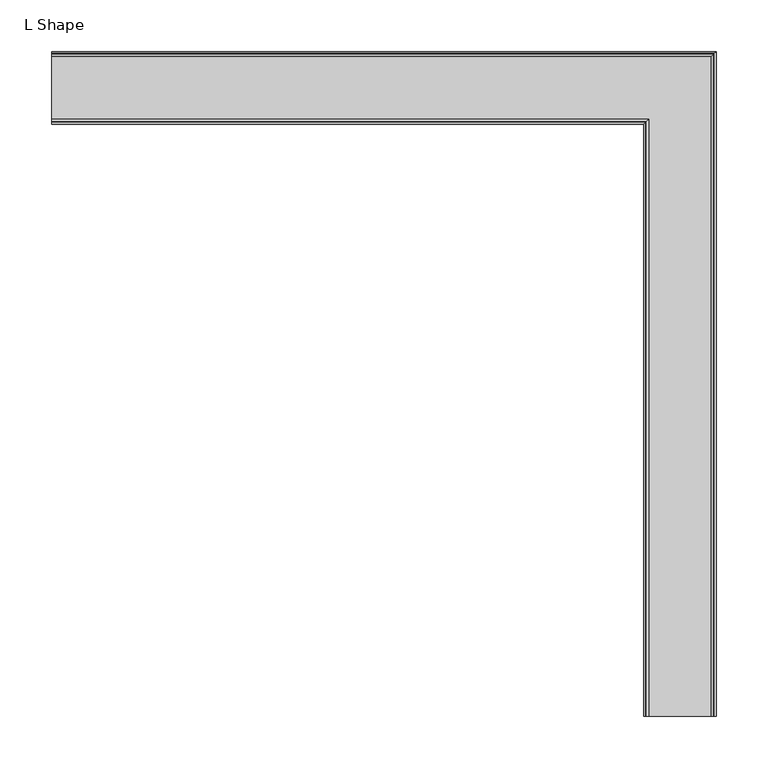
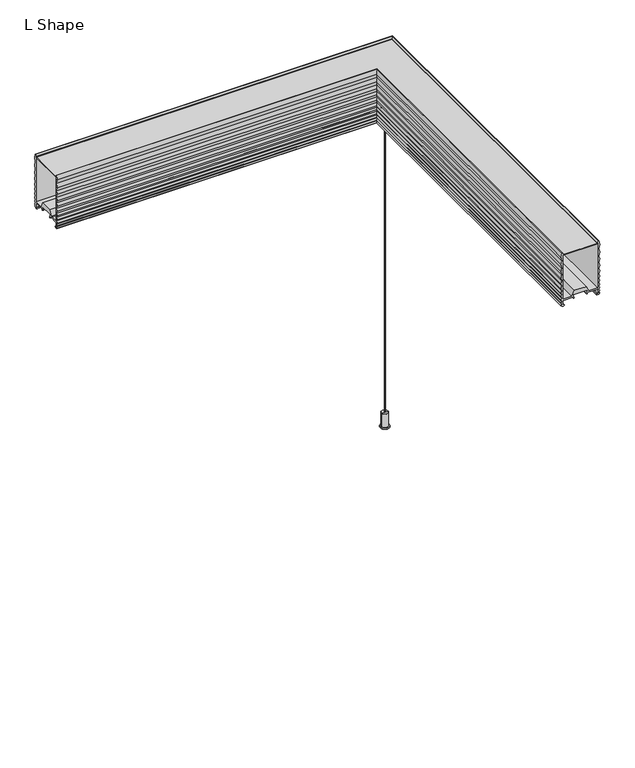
"""IFC4 building model written with IfcOpenShell, lengths in millimetres: light fixture geometry, Lighting-Pendant-Betacalco-Bellows-L_Shape : L Shape."""

from ifc_helpers import new_model, si_unit, point, frame, frame_2d, origin, place, context, project, spatial, polyline, circle_curve, ellipse_curve, trimmed, segment, composite_curve, outline, extrude, source, transform, mapped, element, save
from ifc_brep_helpers import plane_surface, cylinder_surface, advanced_brep


def l_shape_ef792f7e(model_context):
    return source(origin(), model_context, "Body", "SolidModel", [
        extrude(outline(polyline([(334.6958, 30.1625), (334.6958, -30.1625), (274.9042, -30.1625), (274.9042, 30.1625), (334.6958, 30.1625)])), frame((0.0, 0.0, 612.648), z_axis=(0.0, 0.0, 1.0), x_axis=(1.0, 0.0, 0.0)), (0.0, 0.0, 1.0), 1.524),
        advanced_brep(
        [(312.8, 0.0, 0.0), (296.8, 0.0, 0.0), (296.8, 0.0, 2.05), (312.8, 0.0, 2.05), (298.8, 0.0, 2.05), (310.8, 0.0, 2.05), (298.8, 0.0, 27.4), (310.8, 0.0, 27.4), (304.8, 0.0, 27.4), (304.8, 0.0, 0.0)],
        [
            (0, 1, circle_curve(frame((304.8, 0.0, 0.0), z_axis=(0.0, 0.0, 1.0), x_axis=(-1.0, 0.0, 0.0)), 8.0)),
            (1, 2),
            (2, 3, circle_curve(frame((304.8, 0.0, 2.05), z_axis=(0.0, 0.0, -1.0), x_axis=(-1.0, 0.0, 0.0)), 8.0)),
            (3, 0),
            (1, 0, circle_curve(frame((304.8, 0.0, 0.0), z_axis=(0.0, 0.0, 1.0), x_axis=(-1.0, 0.0, 0.0)), 8.0)),
            (3, 2, circle_curve(frame((304.8, 0.0, 2.05), z_axis=(0.0, 0.0, -1.0), x_axis=(-1.0, 0.0, 0.0)), 8.0)),
            (2, 4),
            (4, 5, circle_curve(frame((304.8, 0.0, 2.05), z_axis=(0.0, 0.0, -1.0), x_axis=(-1.0, 0.0, 0.0)), 6.0)),
            (5, 3),
            (5, 4, circle_curve(frame((304.8, 0.0, 2.05), z_axis=(0.0, 0.0, -1.0), x_axis=(-1.0, 0.0, 0.0)), 6.0)),
            (4, 6),
            (6, 7, circle_curve(frame((304.8, 0.0, 27.4), z_axis=(0.0, 0.0, -1.0), x_axis=(-1.0, 0.0, 0.0)), 6.0)),
            (7, 5),
            (7, 6, circle_curve(frame((304.8, 0.0, 27.4), z_axis=(0.0, 0.0, -1.0), x_axis=(-1.0, 0.0, 0.0)), 6.0)),
            (6, 8),
            (8, 7),
            (9, 1),
            (0, 9),
        ],
        [
            cylinder_surface(frame((304.8, 0.0, 2366.7150031), z_axis=(0.0, 0.0, -1.0), x_axis=(-1.0, 0.0, 0.0)), 8.0),
            plane_surface(frame((304.8, 0.0, 2.05), z_axis=(0.0, 0.0, 1.0), x_axis=(-1.0, 0.0, 0.0))),
            cylinder_surface(frame((304.8, 0.0, 2366.7150031), z_axis=(0.0, 0.0, -1.0), x_axis=(-1.0, 0.0, 0.0)), 6.0),
            plane_surface(frame((304.8, 0.0, 27.4), z_axis=(0.0, 0.0, 1.0), x_axis=(-1.0, 0.0, 0.0))),
            plane_surface(frame((304.8, 0.0, 0.0), z_axis=(0.0, 0.0, -1.0), x_axis=(-1.0, 0.0, 0.0))),
        ],
        [
            (0, [[1, 2, 3, 4]]),
            (0, [[5, -4, 6, -2]]),
            (1, [[-3, 7, 8, 9]]),
            (1, [[-6, -9, 10, -7]]),
            (2, [[-8, 11, 12, 13]]),
            (2, [[-10, -13, 14, -11]]),
            (3, [[-12, 15, 16]]),
            (3, [[-14, -16, -15]]),
            (4, [[17, -1, 18]]),
            (4, [[-18, -5, -17]]),
        ],
    ),
        advanced_brep(
        [(305.5937476, 0.0, 27.4), (304.0062524, 0.0, 27.4), (304.0062524, 0.0, 572.93256), (305.5937476, 0.0, 572.93256), (304.8, 0.0, 27.4), (304.8, 0.0, 572.93256)],
        [
            (0, 1, circle_curve(frame((304.8, 0.0, 27.4), z_axis=(0.0, 0.0, 1.0), x_axis=(-1.0, 0.0, 0.0)), 0.7937476)),
            (1, 2),
            (2, 3, circle_curve(frame((304.8, 0.0, 572.93256), z_axis=(0.0, 0.0, -1.0), x_axis=(-1.0, 0.0, 0.0)), 0.7937476)),
            (3, 0),
            (1, 0, circle_curve(frame((304.8, 0.0, 27.4), z_axis=(0.0, 0.0, 1.0), x_axis=(-1.0, 0.0, 0.0)), 0.7937476)),
            (3, 2, circle_curve(frame((304.8, 0.0, 572.93256), z_axis=(0.0, 0.0, -1.0), x_axis=(-1.0, 0.0, 0.0)), 0.7937476)),
            (4, 1),
            (0, 4),
            (2, 5),
            (5, 3),
        ],
        [
            cylinder_surface(frame((304.8, 0.0, 2366.7150031), z_axis=(0.0, 0.0, -1.0), x_axis=(-1.0, 0.0, 0.0)), 0.7937476),
            plane_surface(frame((304.8, 0.0, 27.4), z_axis=(0.0, 0.0, -1.0), x_axis=(-1.0, 0.0, 0.0))),
            plane_surface(frame((304.8, 0.0, 572.93256), z_axis=(0.0, 0.0, 1.0), x_axis=(-1.0, 0.0, 0.0))),
        ],
        [
            (0, [[1, 2, 3, 4]]),
            (0, [[5, -4, 6, -2]]),
            (1, [[7, -1, 8]]),
            (1, [[-8, -5, -7]]),
            (2, [[-3, 9, 10]]),
            (2, [[-6, -10, -9]]),
        ],
    ),
        advanced_brep(
        [(309.2704, 0.0, 578.64756), (300.3296, 0.0, 578.64756), (300.3296, 0.0, 612.648), (309.2704, 0.0, 612.648), (306.7304, 0.0, 578.64756), (302.8696, 0.0, 578.64756), (306.7304, 0.0, 572.93256), (302.8696, 0.0, 572.93256), (304.8, 0.0, 572.93256), (304.8, 0.0, 612.648)],
        [
            (0, 1, circle_curve(frame((304.8, 0.0, 578.64756), z_axis=(0.0, 0.0, 1.0), x_axis=(-1.0, 0.0, 0.0)), 4.4704)),
            (1, 2),
            (2, 3, circle_curve(frame((304.8, 0.0, 612.648), z_axis=(0.0, 0.0, -1.0), x_axis=(-1.0, 0.0, 0.0)), 4.4704)),
            (3, 0),
            (1, 0, circle_curve(frame((304.8, 0.0, 578.64756), z_axis=(0.0, 0.0, 1.0), x_axis=(-1.0, 0.0, 0.0)), 4.4704)),
            (3, 2, circle_curve(frame((304.8, 0.0, 612.648), z_axis=(0.0, 0.0, -1.0), x_axis=(-1.0, 0.0, 0.0)), 4.4704)),
            (4, 5, circle_curve(frame((304.8, 0.0, 578.64756), z_axis=(0.0, 0.0, 1.0), x_axis=(-1.0, 0.0, 0.0)), 1.9304)),
            (5, 1),
            (0, 4),
            (5, 4, circle_curve(frame((304.8, 0.0, 578.64756), z_axis=(0.0, 0.0, 1.0), x_axis=(-1.0, 0.0, 0.0)), 1.9304)),
            (6, 7, circle_curve(frame((304.8, 0.0, 572.93256), z_axis=(0.0, 0.0, 1.0), x_axis=(-1.0, 0.0, 0.0)), 1.9304)),
            (7, 5),
            (4, 6),
            (7, 6, circle_curve(frame((304.8, 0.0, 572.93256), z_axis=(0.0, 0.0, 1.0), x_axis=(-1.0, 0.0, 0.0)), 1.9304)),
            (8, 7),
            (6, 8),
            (2, 9),
            (9, 3),
        ],
        [
            cylinder_surface(frame((304.8, 0.0, 2366.7150031), z_axis=(0.0, 0.0, -1.0), x_axis=(-1.0, 0.0, 0.0)), 4.4704),
            plane_surface(frame((304.8, 0.0, 578.64756), z_axis=(0.0, 0.0, -1.0), x_axis=(-1.0, 0.0, 0.0))),
            cylinder_surface(frame((304.8, 0.0, 2366.7150031), z_axis=(0.0, 0.0, -1.0), x_axis=(-1.0, 0.0, 0.0)), 1.9304),
            plane_surface(frame((304.8, 0.0, 572.93256), z_axis=(0.0, 0.0, -1.0), x_axis=(-1.0, 0.0, 0.0))),
            plane_surface(frame((304.8, 0.0, 612.648), z_axis=(0.0, 0.0, 1.0), x_axis=(-1.0, 0.0, 0.0))),
        ],
        [
            (0, [[1, 2, 3, 4]]),
            (0, [[5, -4, 6, -2]]),
            (1, [[7, 8, -1, 9]]),
            (1, [[10, -9, -5, -8]]),
            (2, [[11, 12, -7, 13]]),
            (2, [[14, -13, -10, -12]]),
            (3, [[15, -11, 16]]),
            (3, [[-16, -14, -15]]),
            (4, [[-3, 17, 18]]),
            (4, [[-6, -18, -17]]),
        ],
    ),
        extrude(outline(composite_curve([segment(trimmed(circle_curve(frame_2d((617.6899758, 295.0365915)), 3.0000001), [point((616.3504727, 292.3522421))], [point((614.7956432, 294.2473898))], False, "CARTESIAN"), True, "CONTINUOUS"), segment(trimmed(circle_curve(frame_2d((653.4964752, 304.8)), 40.113738), [point((614.7956432, 294.2473898))], [point((614.7956432, 315.3526102))], False, "CARTESIAN"), True, "CONTINUOUS"), segment(trimmed(circle_curve(frame_2d((617.6899758, 314.5634085)), 3.0000001), [point((614.7956432, 315.3526102))], [point((616.3504727, 317.2477579))], False, "CARTESIAN"), True, "CONTINUOUS"), segment(polyline([(616.3504727, 317.2477579), (617.6039135, 317.8732308), (617.6039135, 291.7267692), (616.3504727, 292.3522421)]), True, "CONTINUOUS")], self_intersect=False)), frame((0.0, -575.31, 0.0), z_axis=(0.0, 1.0, 0.0), x_axis=(0.0, 0.0, 1.0)), (0.0, 0.0, 1.0), 541.02),
        extrude(outline(composite_curve([segment(trimmed(circle_curve(frame_2d((9.7634085, 617.6899758)), 3.0000001), [point((12.4477579, 616.3504727))], [point((10.5526102, 614.7956432))], False, "CARTESIAN"), True, "CONTINUOUS"), segment(trimmed(circle_curve(frame_2d((0.0, 653.4964752)), 40.113738), [point((10.5526102, 614.7956432))], [point((-10.5526102, 614.7956432))], False, "CARTESIAN"), True, "CONTINUOUS"), segment(trimmed(circle_curve(frame_2d((-9.7634085, 617.6899758)), 3.0000001), [point((-10.5526102, 614.7956432))], [point((-12.4477579, 616.3504727))], False, "CARTESIAN"), True, "CONTINUOUS"), segment(polyline([(-12.4477579, 616.3504727), (-13.0732308, 617.6039135), (13.0732308, 617.6039135), (12.4477579, 616.3504727)]), True, "CONTINUOUS")], self_intersect=False)), frame((-270.51, 0.0, 0.0), z_axis=(1.0, 0.0, 0.0), x_axis=(0.0, 1.0, 0.0)), (0.0, 0.0, 1.0), 541.02),
        advanced_brep(
        [(273.578, -609.6, 620.268), (291.2870711, -609.6, 620.268), (292.0570321, -609.6, 618.214822), (293.7447356, -609.6, 618.8406239), (292.11399, -609.6, 623.1891701), (292.7358437, -609.6, 624.4333325), (316.8641563, -609.6, 624.4333325), (317.48601, -609.6, 623.1891701), (315.8552644, -609.6, 618.8406239), (317.5429679, -609.6, 618.214822), (318.3129289, -609.6, 620.268), (336.022, -609.6, 620.268), (336.022, -609.6, 611.759), (333.4925845, -609.6, 611.759), (335.4378, -609.6, 609.6), (338.0887943, -609.6, 609.6), (339.9621621, -609.6, 611.6283861), (338.181, -609.6, 613.664), (339.959, -609.6, 616.204), (338.181, -609.6, 618.744), (339.959, -609.6, 621.792), (338.181, -609.6, 624.84), (339.959, -609.6, 628.396), (338.181, -609.6, 631.952), (339.959, -609.6, 635.762), (338.181, -609.6, 639.572), (339.9303587, -609.6, 644.0703509), (338.2082002, -609.6, 648.6460566), (339.9355055, -609.6, 653.7288728), (338.2034215, -609.6, 658.8119386), (339.9393965, -609.6, 664.402389), (338.1997837, -609.6, 669.9929656), (339.9424053, -609.6, 676.091104), (338.1964031, -609.6, 682.1911894), (339.9466792, -609.6, 689.3067168), (338.1931082, -609.6, 696.4195673), (339.9474913, -609.6, 703.786321), (338.1814932, -609.6, 711.2), (337.3877432, -609.6, 711.2), (335.22825, -609.6, 708.8470342), (335.22825, -609.6, 707.3961196), (336.022, -609.6, 707.3961196), (336.022, -609.6, 622.427), (320.2806146, -609.6, 622.427), (315.4222255, -609.6, 632.1473325), (294.1777745, -609.6, 632.1473325), (289.3193854, -609.6, 622.427), (273.578, -609.6, 622.427), (273.578, -609.6, 707.3961196), (274.37175, -609.6, 707.3961196), (274.37175, -609.6, 708.8470342), (272.2122568, -609.6, 711.2), (271.4185068, -609.6, 711.2), (269.6525087, -609.6, 703.786321), (271.4068918, -609.6, 696.4195673), (269.6533208, -609.6, 689.3067168), (271.4035969, -609.6, 682.1911894), (269.6575947, -609.6, 676.091104), (271.4002163, -609.6, 669.9929656), (269.6606035, -609.6, 664.402389), (271.3965785, -609.6, 658.8119386), (269.6644945, -609.6, 653.7288728), (271.3917998, -609.6, 648.6460566), (269.6696413, -609.6, 644.0703509), (271.419, -609.6, 639.572), (269.641, -609.6, 635.762), (271.419, -609.6, 631.952), (269.641, -609.6, 628.396), (271.419, -609.6, 624.84), (269.641, -609.6, 621.792), (271.419, -609.6, 618.744), (269.641, -609.6, 616.204), (271.419, -609.6, 613.664), (269.6378379, -609.6, 611.6283861), (271.5112057, -609.6, 609.6), (274.1622, -609.6, 609.6), (276.1074155, -609.6, 611.759), (273.578, -609.6, 611.759), (-304.8, -31.222, 620.268), (-304.8, -31.222, 611.759), (-304.8, -28.6925845, 611.759), (-304.8, -30.6378, 609.6), (-304.8, -33.2887943, 609.6), (-304.8, -35.1621621, 611.6283861), (-304.8, -33.381, 613.664), (-304.8, -35.159, 616.204), (-304.8, -33.381, 618.744), (-304.8, -35.159, 621.792), (-304.8, -33.381, 624.84), (-304.8, -35.159, 628.396), (-304.8, -33.381, 631.952), (-304.8, -35.159, 635.762), (-304.8, -33.381, 639.572), (-304.8, -35.1303587, 644.0703509), (-304.8, -33.4082002, 648.6460566), (-304.8, -35.1355055, 653.7288728), (-304.8, -33.4034215, 658.8119386), (-304.8, -35.1393965, 664.402389), (-304.8, -33.3997837, 669.9929656), (-304.8, -35.1424053, 676.091104), (-304.8, -33.3964031, 682.1911894), (-304.8, -35.1466792, 689.3067168), (-304.8, -33.3931082, 696.4195673), (-304.8, -35.1474913, 703.786321), (-304.8, -33.3814932, 711.2), (-304.8, -32.5877432, 711.2), (-304.8, -30.42825, 708.8470342), (-304.8, -30.42825, 707.3961196), (-304.8, -31.222, 707.3961196), (-304.8, -31.222, 622.427), (-304.8, -15.4806146, 622.427), (-304.8, -10.6222255, 632.1473325), (-304.8, 10.6222255, 632.1473325), (-304.8, 15.4806146, 622.427), (-304.8, 31.222, 622.427), (-304.8, 31.222, 707.3961196), (-304.8, 30.42825, 707.3961196), (-304.8, 30.42825, 708.8470342), (-304.8, 32.5877432, 711.2), (-304.8, 33.3814932, 711.2), (-304.8, 35.1474913, 703.786321), (-304.8, 33.3931082, 696.4195673), (-304.8, 35.1466792, 689.3067168), (-304.8, 33.3964031, 682.1911894), (-304.8, 35.1424053, 676.091104), (-304.8, 33.3997837, 669.9929656), (-304.8, 35.1393965, 664.402389), (-304.8, 33.4034215, 658.8119386), (-304.8, 35.1355055, 653.7288728), (-304.8, 33.4082002, 648.6460566), (-304.8, 35.1303587, 644.0703509), (-304.8, 33.381, 639.572), (-304.8, 35.159, 635.762), (-304.8, 33.381, 631.952), (-304.8, 35.159, 628.396), (-304.8, 33.381, 624.84), (-304.8, 35.159, 621.792), (-304.8, 33.381, 618.744), (-304.8, 35.159, 616.204), (-304.8, 33.381, 613.664), (-304.8, 35.1621621, 611.6283861), (-304.8, 33.2887943, 609.6), (-304.8, 30.6378, 609.6), (-304.8, 28.6925845, 611.759), (-304.8, 31.222, 611.759), (-304.8, 31.222, 620.268), (-304.8, 13.5129289, 620.268), (-304.8, 12.7429679, 618.214822), (-304.8, 11.0552644, 618.8406239), (-304.8, 12.68601, 623.1891701), (-304.8, 12.0641563, 624.4333325), (-304.8, -12.0641563, 624.4333325), (-304.8, -12.68601, 623.1891701), (-304.8, -11.0552644, 618.8406239), (-304.8, -12.7429679, 618.214822), (-304.8, -13.5129289, 620.268), (292.0570321, -12.7429679, 618.214822), (291.2870711, -13.5129289, 620.268), (293.7447356, -11.0552644, 618.8406239), (292.11399, -12.68601, 623.1891701), (292.7358437, -12.0641563, 624.4333325), (317.48601, 12.68601, 623.1891701), (316.8641563, 12.0641563, 624.4333325), (315.8552644, 11.0552644, 618.8406239), (317.5429679, 12.7429679, 618.214822), (318.3129289, 13.5129289, 620.268), (336.022, 31.222, 611.759), (336.022, 31.222, 620.268), (335.4378, 30.6378, 609.6), (333.4925845, 28.6925845, 611.759), (339.9621621, 35.1621621, 611.6283861), (338.0887943, 33.2887943, 609.6), (338.181, 33.381, 613.664), (339.959, 35.159, 616.204), (338.181, 33.381, 618.744), (339.959, 35.159, 621.792), (338.181, 33.381, 624.84), (339.959, 35.159, 628.396), (338.181, 33.381, 631.952), (339.959, 35.159, 635.762), (338.181, 33.381, 639.572), (339.9303587, 35.1303587, 644.0703509), (338.2082002, 33.4082002, 648.6460566), (339.9355055, 35.1355055, 653.7288728), (338.2034215, 33.4034215, 658.8119386), (339.9393965, 35.1393965, 664.402389), (338.1997837, 33.3997837, 669.9929656), (339.9424053, 35.1424053, 676.091104), (338.1964031, 33.3964031, 682.1911894), (339.9466792, 35.1466792, 689.3067168), (338.1931082, 33.3931082, 696.4195673), (339.9474913, 35.1474913, 703.786321), (338.1814932, 33.3814932, 711.2), (335.22825, 30.42825, 708.8470342), (337.3877432, 32.5877432, 711.2), (335.22825, 30.42825, 707.3961196), (336.022, 31.222, 622.427), (336.022, 31.222, 707.3961196), (315.4222255, 10.6222255, 632.1473325), (320.2806146, 15.4806146, 622.427), (289.3193854, -15.4806146, 622.427), (294.1777745, -10.6222255, 632.1473325), (273.578, -31.222, 707.3961196), (273.578, -31.222, 622.427), (274.37175, -30.42825, 708.8470342), (274.37175, -30.42825, 707.3961196), (272.2122568, -32.5877432, 711.2), (269.6525087, -35.1474913, 703.786321), (271.4185068, -33.3814932, 711.2), (271.4068918, -33.3931082, 696.4195673), (269.6533208, -35.1466792, 689.3067168), (271.4035969, -33.3964031, 682.1911894), (269.6575947, -35.1424053, 676.091104), (271.4002163, -33.3997837, 669.9929656), (269.6606035, -35.1393965, 664.402389), (271.3965785, -33.4034215, 658.8119386), (269.6644945, -35.1355055, 653.7288728), (271.3917998, -33.4082002, 648.6460566), (269.6696413, -35.1303587, 644.0703509), (271.419, -33.381, 639.572), (269.641, -35.159, 635.762), (271.419, -33.381, 631.952), (269.641, -35.159, 628.396), (271.419, -33.381, 624.84), (269.641, -35.159, 621.792), (271.419, -33.381, 618.744), (269.641, -35.159, 616.204), (271.419, -33.381, 613.664), (269.6378379, -35.1621621, 611.6283861), (271.5112057, -33.2887943, 609.6), (276.1074155, -28.6925845, 611.759), (274.1622, -30.6378, 609.6), (273.578, -31.222, 620.268), (273.578, -31.222, 611.759)],
        [
            (0, 1),
            (1, 2),
            (2, 3, circle_curve(frame((292.8997277, -609.6, 618.5308408), z_axis=(0.0, -1.0, 0.0), x_axis=(0.34325550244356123, 0.0, -0.9392420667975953)), 0.9000021)),
            (3, 4),
            (4, 5),
            (5, 6),
            (6, 7),
            (7, 8),
            (8, 9, circle_curve(frame((316.7002723, -609.6, 618.5308408), z_axis=(0.0, -1.0, 0.0), x_axis=(-0.34325550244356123, 0.0, -0.9392420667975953)), 0.9000021)),
            (9, 10),
            (10, 11),
            (11, 12),
            (12, 13),
            (13, 14, circle_curve(frame((335.4378, -609.6, 611.5558), z_axis=(0.0, -1.0, 0.0), x_axis=(0.0, 0.0, -1.0)), 1.9558)),
            (14, 15),
            (15, 16),
            (16, 17),
            (17, 18),
            (18, 19),
            (19, 20),
            (20, 21),
            (21, 22),
            (22, 23),
            (23, 24),
            (24, 25),
            (25, 26),
            (26, 27),
            (27, 28),
            (28, 29),
            (29, 30),
            (30, 31),
            (31, 32),
            (32, 33),
            (33, 34),
            (34, 35),
            (35, 36),
            (36, 37),
            (37, 38),
            (38, 39),
            (39, 40),
            (40, 41),
            (41, 42),
            (42, 43),
            (43, 44),
            (44, 45),
            (45, 46),
            (46, 47),
            (47, 48),
            (48, 49),
            (49, 50),
            (50, 51),
            (51, 52),
            (52, 53),
            (53, 54),
            (54, 55),
            (55, 56),
            (56, 57),
            (57, 58),
            (58, 59),
            (59, 60),
            (60, 61),
            (61, 62),
            (62, 63),
            (63, 64),
            (64, 65),
            (65, 66),
            (66, 67),
            (67, 68),
            (68, 69),
            (69, 70),
            (70, 71),
            (71, 72),
            (72, 73),
            (73, 74),
            (74, 75),
            (75, 76, circle_curve(frame((274.1622, -609.6, 611.5558), z_axis=(0.0, -1.0, 0.0), x_axis=(0.0, 0.0, -1.0)), 1.9558)),
            (76, 77),
            (77, 0),
            (78, 79),
            (79, 80),
            (80, 81, circle_curve(frame((-304.8, -30.6378, 611.5558), z_axis=(-1.0, 0.0, 0.0), x_axis=(0.0, 0.0, -1.0)), 1.9558)),
            (81, 82),
            (82, 83),
            (83, 84),
            (84, 85),
            (85, 86),
            (86, 87),
            (87, 88),
            (88, 89),
            (89, 90),
            (90, 91),
            (91, 92),
            (92, 93),
            (93, 94),
            (94, 95),
            (95, 96),
            (96, 97),
            (97, 98),
            (98, 99),
            (99, 100),
            (100, 101),
            (101, 102),
            (102, 103),
            (103, 104),
            (104, 105),
            (105, 106),
            (106, 107),
            (107, 108),
            (108, 109),
            (109, 110),
            (110, 111),
            (111, 112),
            (112, 113),
            (113, 114),
            (114, 115),
            (115, 116),
            (116, 117),
            (117, 118),
            (118, 119),
            (119, 120),
            (120, 121),
            (121, 122),
            (122, 123),
            (123, 124),
            (124, 125),
            (125, 126),
            (126, 127),
            (127, 128),
            (128, 129),
            (129, 130),
            (130, 131),
            (131, 132),
            (132, 133),
            (133, 134),
            (134, 135),
            (135, 136),
            (136, 137),
            (137, 138),
            (138, 139),
            (139, 140),
            (140, 141),
            (141, 142),
            (142, 143, circle_curve(frame((-304.8, 30.6378, 611.5558), z_axis=(-1.0, 0.0, 0.0), x_axis=(0.0, 0.0, -1.0)), 1.9558)),
            (143, 144),
            (144, 145),
            (145, 146),
            (146, 147),
            (147, 148, circle_curve(frame((-304.8, 11.9002723, 618.5308408), z_axis=(-1.0, 0.0, 0.0), x_axis=(0.0, -0.34325550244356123, -0.9392420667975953)), 0.9000021)),
            (148, 149),
            (149, 150),
            (150, 151),
            (151, 152),
            (152, 153),
            (153, 154, circle_curve(frame((-304.8, -11.9002723, 618.5308408), z_axis=(-1.0, 0.0, 0.0), x_axis=(0.0, 0.34325550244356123, -0.9392420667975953)), 0.9000021)),
            (154, 155),
            (155, 78),
            (156, 157),
            (157, 155),
            (154, 156),
            (158, 156, ellipse_curve(frame((292.8997277, -11.9002723, 618.5308408), z_axis=(-0.7071067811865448, 0.7071067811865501, 0.0), x_axis=(0.7071067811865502, 0.7071067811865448, 0.0)), 1.2727952, 0.9000021)),
            (153, 158),
            (159, 158),
            (152, 159),
            (160, 159),
            (151, 160),
            (161, 162),
            (162, 150),
            (149, 161),
            (163, 161),
            (148, 163),
            (164, 163, ellipse_curve(frame((316.7002723, 11.9002723, 618.5308408), z_axis=(-0.7071067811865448, 0.7071067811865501, 0.0), x_axis=(0.7071067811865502, 0.7071067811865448, 0.0)), 1.2727952, 0.9000021)),
            (147, 164),
            (165, 164),
            (146, 165),
            (166, 167),
            (167, 145),
            (144, 166),
            (168, 169, ellipse_curve(frame((335.4378, 30.6378, 611.5558), z_axis=(-0.7071067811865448, 0.7071067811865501, 0.0), x_axis=(0.7071067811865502, 0.7071067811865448, 0.0)), 2.7659189, 1.9558)),
            (169, 143),
            (142, 168),
            (170, 171),
            (171, 141),
            (140, 170),
            (172, 170),
            (139, 172),
            (173, 172),
            (138, 173),
            (174, 173),
            (137, 174),
            (175, 174),
            (136, 175),
            (176, 175),
            (135, 176),
            (177, 176),
            (134, 177),
            (178, 177),
            (133, 178),
            (179, 178),
            (132, 179),
            (180, 179),
            (131, 180),
            (181, 180),
            (130, 181),
            (182, 181),
            (129, 182),
            (183, 182),
            (128, 183),
            (184, 183),
            (127, 184),
            (185, 184),
            (126, 185),
            (186, 185),
            (125, 186),
            (187, 186),
            (124, 187),
            (188, 187),
            (123, 188),
            (189, 188),
            (122, 189),
            (190, 189),
            (121, 190),
            (191, 190),
            (120, 191),
            (192, 191),
            (119, 192),
            (193, 194),
            (194, 118),
            (117, 193),
            (195, 193),
            (116, 195),
            (196, 197),
            (197, 115),
            (114, 196),
            (198, 199),
            (199, 113),
            (112, 198),
            (200, 201),
            (201, 111),
            (110, 200),
            (202, 203),
            (203, 109),
            (108, 202),
            (204, 205),
            (205, 107),
            (106, 204),
            (206, 204),
            (105, 206),
            (207, 208),
            (208, 104),
            (103, 207),
            (209, 207),
            (102, 209),
            (210, 209),
            (101, 210),
            (211, 210),
            (100, 211),
            (212, 211),
            (99, 212),
            (213, 212),
            (98, 213),
            (214, 213),
            (97, 214),
            (215, 214),
            (96, 215),
            (216, 215),
            (95, 216),
            (217, 216),
            (94, 217),
            (218, 217),
            (93, 218),
            (219, 218),
            (92, 219),
            (220, 219),
            (91, 220),
            (221, 220),
            (90, 221),
            (222, 221),
            (89, 222),
            (223, 222),
            (88, 223),
            (224, 223),
            (87, 224),
            (225, 224),
            (86, 225),
            (226, 225),
            (85, 226),
            (227, 226),
            (84, 227),
            (228, 227),
            (83, 228),
            (229, 228),
            (82, 229),
            (230, 231, ellipse_curve(frame((274.1622, -30.6378, 611.5558), z_axis=(-0.7071067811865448, 0.7071067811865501, 0.0), x_axis=(0.7071067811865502, 0.7071067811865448, 0.0)), 2.7659189, 1.9558)),
            (231, 81),
            (80, 230),
            (232, 233),
            (233, 79),
            (78, 232),
            (0, 232),
            (157, 1),
            (156, 2),
            (158, 3),
            (159, 4),
            (160, 5),
            (162, 6),
            (161, 7),
            (163, 8),
            (164, 9),
            (165, 10),
            (167, 11),
            (166, 12),
            (169, 13),
            (168, 14),
            (171, 15),
            (170, 16),
            (172, 17),
            (173, 18),
            (174, 19),
            (175, 20),
            (176, 21),
            (177, 22),
            (178, 23),
            (179, 24),
            (180, 25),
            (181, 26),
            (182, 27),
            (183, 28),
            (184, 29),
            (185, 30),
            (186, 31),
            (187, 32),
            (188, 33),
            (189, 34),
            (190, 35),
            (191, 36),
            (192, 37),
            (194, 38),
            (193, 39),
            (195, 40),
            (197, 41),
            (196, 42),
            (199, 43),
            (198, 44),
            (201, 45),
            (200, 46),
            (203, 47),
            (202, 48),
            (205, 49),
            (204, 50),
            (206, 51),
            (208, 52),
            (207, 53),
            (209, 54),
            (210, 55),
            (211, 56),
            (212, 57),
            (213, 58),
            (214, 59),
            (215, 60),
            (216, 61),
            (217, 62),
            (218, 63),
            (219, 64),
            (220, 65),
            (221, 66),
            (222, 67),
            (223, 68),
            (224, 69),
            (225, 70),
            (226, 71),
            (227, 72),
            (228, 73),
            (229, 74),
            (231, 75),
            (230, 76),
            (233, 77),
        ],
        [
            plane_surface(frame((304.8, -609.6, 0.0), z_axis=(0.0, -1.0, 0.0), x_axis=(0.0, 0.0, 1.0))),
            plane_surface(frame((-304.8, 0.0, 0.0), z_axis=(-1.0, 0.0, 0.0), x_axis=(0.0, 0.0, 1.0))),
            plane_surface(frame((291.2870711, -13.5129289, 620.268), z_axis=(0.0, -0.9363262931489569, -0.3511311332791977), x_axis=(-1.0, 0.0, 0.0))),
            cylinder_surface(frame((304.8, -11.9002723, 618.5308408), z_axis=(1.0, 0.0, 0.0), x_axis=(0.0, 0.34325550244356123, -0.9392420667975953)), 0.9000021),
            plane_surface(frame((293.7447356, -11.0552644, 618.8406239), z_axis=(0.0, 0.9363262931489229, 0.35113113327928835), x_axis=(-1.0, 0.0, 0.0))),
            plane_surface(frame((292.11399, -12.68601, 623.1891701), z_axis=(0.0, 0.89449260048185, -0.44708275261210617), x_axis=(-1.0, 0.0, 0.0))),
            plane_surface(frame((316.8641563, 12.0641563, 624.4333325), z_axis=(0.0, -0.89449260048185, -0.44708275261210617), x_axis=(-1.0, 0.0, 0.0))),
            plane_surface(frame((317.48601, 12.68601, 623.1891701), z_axis=(0.0, -0.9363262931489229, 0.35113113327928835), x_axis=(-1.0, 0.0, 0.0))),
            cylinder_surface(frame((304.8, 11.9002723, 618.5308408), z_axis=(1.0, 0.0, 0.0), x_axis=(0.0, -0.34325550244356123, -0.9392420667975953)), 0.9000021),
            plane_surface(frame((317.5429679, 12.7429679, 618.214822), z_axis=(0.0, 0.9363262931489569, -0.3511311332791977), x_axis=(-1.0, 0.0, 0.0))),
            plane_surface(frame((336.022, 31.222, 620.268), z_axis=(0.0, -1.0, 0.0), x_axis=(-1.0, 0.0, 0.0))),
            cylinder_surface(frame((304.8, 30.6378, 611.5558), z_axis=(1.0, 0.0, 0.0), x_axis=(0.0, 0.0, -1.0)), 1.9558),
            plane_surface(frame((338.0887943, 33.2887943, 609.6), z_axis=(0.0, 0.7346208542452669, -0.6784778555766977), x_axis=(-1.0, 0.0, 0.0))),
            plane_surface(frame((339.9621621, 35.1621621, 611.6283861), z_axis=(0.0, 0.75257669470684, 0.6585046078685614), x_axis=(-1.0, 0.0, 0.0))),
            plane_surface(frame((338.181, 33.381, 613.664), z_axis=(0.0, 0.8192319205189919, -0.5734623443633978), x_axis=(-1.0, 0.0, 0.0))),
            plane_surface(frame((339.959, 35.159, 616.204), z_axis=(0.0, 0.8192319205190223, 0.5734623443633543), x_axis=(-1.0, 0.0, 0.0))),
            plane_surface(frame((338.181, 33.381, 618.744), z_axis=(0.0, 0.8637789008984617, -0.503871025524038), x_axis=(-1.0, 0.0, 0.0))),
            plane_surface(frame((339.959, 35.159, 621.792), z_axis=(0.0, 0.8637789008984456, 0.5038710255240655), x_axis=(-1.0, 0.0, 0.0))),
            plane_surface(frame((338.181, 33.381, 624.84), z_axis=(0.0, 0.8944271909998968, -0.4472135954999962), x_axis=(-1.0, 0.0, 0.0))),
            plane_surface(frame((339.959, 35.159, 628.396), z_axis=(0.0, 0.8944271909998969, 0.44721359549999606), x_axis=(-1.0, 0.0, 0.0))),
            plane_surface(frame((338.181, 33.381, 631.952), z_axis=(0.0, 0.9061831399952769, -0.4228854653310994), x_axis=(-1.0, 0.0, 0.0))),
            plane_surface(frame((339.959, 35.159, 635.762), z_axis=(0.0, 0.9061831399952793, 0.4228854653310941), x_axis=(-1.0, 0.0, 0.0))),
            plane_surface(frame((338.181, 33.381, 639.572), z_axis=(0.0, 0.9320046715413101, -0.362446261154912), x_axis=(-1.0, 0.0, 0.0))),
            plane_surface(frame((339.9303587, 35.1303587, 644.0703509), z_axis=(0.0, 0.9359069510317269, 0.35224732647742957), x_axis=(-1.0, 0.0, 0.0))),
            plane_surface(frame((338.2082002, 33.4082002, 648.6460566), z_axis=(0.0, 0.9468211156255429, -0.3217604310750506), x_axis=(-1.0, 0.0, 0.0))),
            plane_surface(frame((339.9355055, 35.1355055, 653.7288728), z_axis=(0.0, 0.9465545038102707, 0.3225439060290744), x_axis=(-1.0, 0.0, 0.0))),
            plane_surface(frame((338.2034215, 33.4034215, 658.8119386), z_axis=(0.0, 0.9550153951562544, -0.2965562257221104), x_axis=(-1.0, 0.0, 0.0))),
            plane_surface(frame((339.9393965, 35.1393965, 664.402389), z_axis=(0.0, 0.9548411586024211, 0.29711674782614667), x_axis=(-1.0, 0.0, 0.0))),
            plane_surface(frame((338.1997837, 33.3997837, 669.9929656), z_axis=(0.0, 0.9615116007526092, -0.2747643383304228), x_axis=(-1.0, 0.0, 0.0))),
            plane_surface(frame((339.9424053, 35.1424053, 676.091104), z_axis=(0.0, 0.9613939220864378, 0.27517581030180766), x_axis=(-1.0, 0.0, 0.0))),
            plane_surface(frame((338.1964031, 33.3964031, 682.1911894), z_axis=(0.0, 0.971054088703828, -0.23885970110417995), x_axis=(-1.0, 0.0, 0.0))),
            plane_surface(frame((339.9466792, 35.1466792, 689.3067168), z_axis=(0.0, 0.9709287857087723, 0.23936852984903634), x_axis=(-1.0, 0.0, 0.0))),
            plane_surface(frame((338.1931082, 33.3931082, 696.4195673), z_axis=(0.0, 0.9727944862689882, -0.23166978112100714), x_axis=(-1.0, 0.0, 0.0))),
            plane_surface(frame((339.9474913, 35.1474913, 703.786321), z_axis=(0.0, 0.9727814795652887, 0.23172439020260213), x_axis=(-1.0, 0.0, 0.0))),
            plane_surface(frame((337.3877432, 32.5877432, 711.2), z_axis=(0.0, -0.7367472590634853, 0.6761682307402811), x_axis=(-1.0, 0.0, 0.0))),
            plane_surface(frame((335.22825, 30.42825, 708.8470342), z_axis=(0.0, -1.0, 0.0), x_axis=(-1.0, 0.0, 0.0))),
            plane_surface(frame((336.022, 31.222, 707.3961196), z_axis=(0.0, -1.0, 0.0), x_axis=(-1.0, 0.0, 0.0))),
            plane_surface(frame((320.2806146, 15.4806146, 622.427), z_axis=(0.0, 0.8944926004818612, 0.4470827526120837), x_axis=(-1.0, 0.0, 0.0))),
            plane_surface(frame((294.1777745, -10.6222255, 632.1473325), z_axis=(0.0, -0.8944926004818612, 0.4470827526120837), x_axis=(-1.0, 0.0, 0.0))),
            plane_surface(frame((273.578, -31.222, 622.427), z_axis=(0.0, 1.0, 0.0), x_axis=(-1.0, 0.0, 0.0))),
            plane_surface(frame((274.37175, -30.42825, 707.3961196), z_axis=(0.0, 1.0, 0.0), x_axis=(-1.0, 0.0, 0.0))),
            plane_surface(frame((274.37175, -30.42825, 708.8470342), z_axis=(0.0, 0.7367472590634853, 0.6761682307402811), x_axis=(-1.0, 0.0, 0.0))),
            plane_surface(frame((271.4185068, -33.3814932, 711.2), z_axis=(0.0, -0.9727814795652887, 0.23172439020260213), x_axis=(-1.0, 0.0, 0.0))),
            plane_surface(frame((269.6525087, -35.1474913, 703.786321), z_axis=(0.0, -0.9727944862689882, -0.23166978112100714), x_axis=(-1.0, 0.0, 0.0))),
            plane_surface(frame((271.4068918, -33.3931082, 696.4195673), z_axis=(0.0, -0.9709287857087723, 0.23936852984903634), x_axis=(-1.0, 0.0, 0.0))),
            plane_surface(frame((269.6533208, -35.1466792, 689.3067168), z_axis=(0.0, -0.971054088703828, -0.23885970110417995), x_axis=(-1.0, 0.0, 0.0))),
            plane_surface(frame((271.4035969, -33.3964031, 682.1911894), z_axis=(0.0, -0.9613939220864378, 0.27517581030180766), x_axis=(-1.0, 0.0, 0.0))),
            plane_surface(frame((269.6575947, -35.1424053, 676.091104), z_axis=(0.0, -0.9615116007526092, -0.2747643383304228), x_axis=(-1.0, 0.0, 0.0))),
            plane_surface(frame((271.4002163, -33.3997837, 669.9929656), z_axis=(0.0, -0.9548411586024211, 0.29711674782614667), x_axis=(-1.0, 0.0, 0.0))),
            plane_surface(frame((269.6606035, -35.1393965, 664.402389), z_axis=(0.0, -0.9550153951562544, -0.2965562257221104), x_axis=(-1.0, 0.0, 0.0))),
            plane_surface(frame((271.3965785, -33.4034215, 658.8119386), z_axis=(0.0, -0.9465545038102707, 0.3225439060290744), x_axis=(-1.0, 0.0, 0.0))),
            plane_surface(frame((269.6644945, -35.1355055, 653.7288728), z_axis=(0.0, -0.9468211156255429, -0.3217604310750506), x_axis=(-1.0, 0.0, 0.0))),
            plane_surface(frame((271.3917998, -33.4082002, 648.6460566), z_axis=(0.0, -0.9359069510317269, 0.35224732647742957), x_axis=(-1.0, 0.0, 0.0))),
            plane_surface(frame((269.6696413, -35.1303587, 644.0703509), z_axis=(0.0, -0.9320046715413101, -0.362446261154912), x_axis=(-1.0, 0.0, 0.0))),
            plane_surface(frame((271.419, -33.381, 639.572), z_axis=(0.0, -0.9061831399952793, 0.4228854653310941), x_axis=(-1.0, 0.0, 0.0))),
            plane_surface(frame((269.641, -35.159, 635.762), z_axis=(0.0, -0.9061831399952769, -0.4228854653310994), x_axis=(-1.0, 0.0, 0.0))),
            plane_surface(frame((271.419, -33.381, 631.952), z_axis=(0.0, -0.8944271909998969, 0.44721359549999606), x_axis=(-1.0, 0.0, 0.0))),
            plane_surface(frame((269.641, -35.159, 628.396), z_axis=(0.0, -0.8944271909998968, -0.4472135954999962), x_axis=(-1.0, 0.0, 0.0))),
            plane_surface(frame((271.419, -33.381, 624.84), z_axis=(0.0, -0.8637789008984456, 0.5038710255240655), x_axis=(-1.0, 0.0, 0.0))),
            plane_surface(frame((269.641, -35.159, 621.792), z_axis=(0.0, -0.8637789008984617, -0.503871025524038), x_axis=(-1.0, 0.0, 0.0))),
            plane_surface(frame((271.419, -33.381, 618.744), z_axis=(0.0, -0.8192319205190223, 0.5734623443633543), x_axis=(-1.0, 0.0, 0.0))),
            plane_surface(frame((269.641, -35.159, 616.204), z_axis=(0.0, -0.8192319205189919, -0.5734623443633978), x_axis=(-1.0, 0.0, 0.0))),
            plane_surface(frame((271.419, -33.381, 613.664), z_axis=(0.0, -0.75257669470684, 0.6585046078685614), x_axis=(-1.0, 0.0, 0.0))),
            plane_surface(frame((269.6378379, -35.1621621, 611.6283861), z_axis=(0.0, -0.7346208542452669, -0.6784778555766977), x_axis=(-1.0, 0.0, 0.0))),
            cylinder_surface(frame((304.8, -30.6378, 611.5558), z_axis=(1.0, 0.0, 0.0), x_axis=(0.0, 0.0, -1.0)), 1.9558),
            plane_surface(frame((273.578, -31.222, 611.759), z_axis=(0.0, 1.0, 0.0), x_axis=(-1.0, 0.0, 0.0))),
            plane_surface(frame((273.578, -609.6, 620.268), z_axis=(0.0, 0.0, -1.0), x_axis=(0.0, 1.0, 0.0))),
            plane_surface(frame((291.2870711, -609.6, 620.268), z_axis=(-0.9363262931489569, 0.0, -0.3511311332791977), x_axis=(0.0, 1.0, 0.0))),
            cylinder_surface(frame((292.8997277, -609.6, 618.5308408), z_axis=(0.0, -1.0, 0.0), x_axis=(0.34325550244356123, 0.0, -0.9392420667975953)), 0.9000021),
            plane_surface(frame((293.7447356, -609.6, 618.8406239), z_axis=(0.9363262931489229, 0.0, 0.35113113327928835), x_axis=(0.0, 1.0, 0.0))),
            plane_surface(frame((292.11399, -609.6, 623.1891701), z_axis=(0.89449260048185, 0.0, -0.44708275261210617), x_axis=(0.0, 1.0, 0.0))),
            plane_surface(frame((292.7358437, -609.6, 624.4333325), z_axis=(0.0, 0.0, -1.0), x_axis=(0.0, 1.0, 0.0))),
            plane_surface(frame((316.8641563, -609.6, 624.4333325), z_axis=(-0.89449260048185, 0.0, -0.44708275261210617), x_axis=(0.0, 1.0, 0.0))),
            plane_surface(frame((317.48601, -609.6, 623.1891701), z_axis=(-0.9363262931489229, 0.0, 0.35113113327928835), x_axis=(0.0, 1.0, 0.0))),
            cylinder_surface(frame((316.7002723, -609.6, 618.5308408), z_axis=(0.0, -1.0, 0.0), x_axis=(-0.34325550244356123, 0.0, -0.9392420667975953)), 0.9000021),
            plane_surface(frame((317.5429679, -609.6, 618.214822), z_axis=(0.9363262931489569, 0.0, -0.3511311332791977), x_axis=(0.0, 1.0, 0.0))),
            plane_surface(frame((318.3129289, -609.6, 620.268), z_axis=(0.0, 0.0, -1.0), x_axis=(0.0, 1.0, 0.0))),
            plane_surface(frame((336.022, -609.6, 620.268), z_axis=(-1.0, 0.0, 0.0), x_axis=(0.0, 1.0, 0.0))),
            plane_surface(frame((336.022, -609.6, 611.759), z_axis=(0.0, 0.0, 1.0), x_axis=(0.0, 1.0, 0.0))),
            cylinder_surface(frame((335.4378, -609.6, 611.5558), z_axis=(0.0, -1.0, 0.0), x_axis=(0.0, 0.0, -1.0)), 1.9558),
            plane_surface(frame((335.4378, -609.6, 609.6), z_axis=(0.0, 0.0, -1.0), x_axis=(0.0, 1.0, 0.0))),
            plane_surface(frame((338.0887943, -609.6, 609.6), z_axis=(0.7346208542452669, 0.0, -0.6784778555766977), x_axis=(0.0, 1.0, 0.0))),
            plane_surface(frame((339.9621621, -609.6, 611.6283861), z_axis=(0.75257669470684, 0.0, 0.6585046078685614), x_axis=(0.0, 1.0, 0.0))),
            plane_surface(frame((338.181, -609.6, 613.664), z_axis=(0.8192319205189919, 0.0, -0.5734623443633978), x_axis=(0.0, 1.0, 0.0))),
            plane_surface(frame((339.959, -609.6, 616.204), z_axis=(0.8192319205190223, 0.0, 0.5734623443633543), x_axis=(0.0, 1.0, 0.0))),
            plane_surface(frame((338.181, -609.6, 618.744), z_axis=(0.8637789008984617, 0.0, -0.503871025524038), x_axis=(0.0, 1.0, 0.0))),
            plane_surface(frame((339.959, -609.6, 621.792), z_axis=(0.8637789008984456, 0.0, 0.5038710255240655), x_axis=(0.0, 1.0, 0.0))),
            plane_surface(frame((338.181, -609.6, 624.84), z_axis=(0.8944271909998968, 0.0, -0.4472135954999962), x_axis=(0.0, 1.0, 0.0))),
            plane_surface(frame((339.959, -609.6, 628.396), z_axis=(0.8944271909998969, 0.0, 0.44721359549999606), x_axis=(0.0, 1.0, 0.0))),
            plane_surface(frame((338.181, -609.6, 631.952), z_axis=(0.9061831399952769, 0.0, -0.4228854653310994), x_axis=(0.0, 1.0, 0.0))),
            plane_surface(frame((339.959, -609.6, 635.762), z_axis=(0.9061831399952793, 0.0, 0.4228854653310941), x_axis=(0.0, 1.0, 0.0))),
            plane_surface(frame((338.181, -609.6, 639.572), z_axis=(0.9320046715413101, 0.0, -0.362446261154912), x_axis=(0.0, 1.0, 0.0))),
            plane_surface(frame((339.9303587, -609.6, 644.0703509), z_axis=(0.9359069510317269, 0.0, 0.35224732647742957), x_axis=(0.0, 1.0, 0.0))),
            plane_surface(frame((338.2082002, -609.6, 648.6460566), z_axis=(0.9468211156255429, 0.0, -0.3217604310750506), x_axis=(0.0, 1.0, 0.0))),
            plane_surface(frame((339.9355055, -609.6, 653.7288728), z_axis=(0.9465545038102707, 0.0, 0.3225439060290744), x_axis=(0.0, 1.0, 0.0))),
            plane_surface(frame((338.2034215, -609.6, 658.8119386), z_axis=(0.9550153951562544, 0.0, -0.2965562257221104), x_axis=(0.0, 1.0, 0.0))),
            plane_surface(frame((339.9393965, -609.6, 664.402389), z_axis=(0.9548411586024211, 0.0, 0.29711674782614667), x_axis=(0.0, 1.0, 0.0))),
            plane_surface(frame((338.1997837, -609.6, 669.9929656), z_axis=(0.9615116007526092, 0.0, -0.2747643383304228), x_axis=(0.0, 1.0, 0.0))),
            plane_surface(frame((339.9424053, -609.6, 676.091104), z_axis=(0.9613939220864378, 0.0, 0.27517581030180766), x_axis=(0.0, 1.0, 0.0))),
            plane_surface(frame((338.1964031, -609.6, 682.1911894), z_axis=(0.971054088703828, 0.0, -0.23885970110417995), x_axis=(0.0, 1.0, 0.0))),
            plane_surface(frame((339.9466792, -609.6, 689.3067168), z_axis=(0.9709287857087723, 0.0, 0.23936852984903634), x_axis=(0.0, 1.0, 0.0))),
            plane_surface(frame((338.1931082, -609.6, 696.4195673), z_axis=(0.9727944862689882, 0.0, -0.23166978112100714), x_axis=(0.0, 1.0, 0.0))),
            plane_surface(frame((339.9474913, -609.6, 703.786321), z_axis=(0.9727814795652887, 0.0, 0.23172439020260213), x_axis=(0.0, 1.0, 0.0))),
            plane_surface(frame((338.1814932, -609.6, 711.2), z_axis=(0.0, 0.0, 1.0), x_axis=(0.0, 1.0, 0.0))),
            plane_surface(frame((337.3877432, -609.6, 711.2), z_axis=(-0.7367472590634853, 0.0, 0.6761682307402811), x_axis=(0.0, 1.0, 0.0))),
            plane_surface(frame((335.22825, -609.6, 708.8470342), z_axis=(-1.0, 0.0, 0.0), x_axis=(0.0, 1.0, 0.0))),
            plane_surface(frame((335.22825, -609.6, 707.3961196), z_axis=(0.0, 0.0, -1.0), x_axis=(0.0, 1.0, 0.0))),
            plane_surface(frame((336.022, -609.6, 707.3961196), z_axis=(-1.0, 0.0, 0.0), x_axis=(0.0, 1.0, 0.0))),
            plane_surface(frame((336.022, -609.6, 622.427), z_axis=(0.0, 0.0, 1.0), x_axis=(0.0, 1.0, 0.0))),
            plane_surface(frame((320.2806146, -609.6, 622.427), z_axis=(0.8944926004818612, 0.0, 0.4470827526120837), x_axis=(0.0, 1.0, 0.0))),
            plane_surface(frame((315.4222255, -609.6, 632.1473325), z_axis=(0.0, 0.0, 1.0), x_axis=(0.0, 1.0, 0.0))),
            plane_surface(frame((294.1777745, -609.6, 632.1473325), z_axis=(-0.8944926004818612, 0.0, 0.4470827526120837), x_axis=(0.0, 1.0, 0.0))),
            plane_surface(frame((289.3193854, -609.6, 622.427), z_axis=(0.0, 0.0, 1.0), x_axis=(0.0, 1.0, 0.0))),
            plane_surface(frame((273.578, -609.6, 622.427), z_axis=(1.0, 0.0, 0.0), x_axis=(0.0, 1.0, 0.0))),
            plane_surface(frame((273.578, -609.6, 707.3961196), z_axis=(0.0, 0.0, -1.0), x_axis=(0.0, 1.0, 0.0))),
            plane_surface(frame((274.37175, -609.6, 707.3961196), z_axis=(1.0, 0.0, 0.0), x_axis=(0.0, 1.0, 0.0))),
            plane_surface(frame((274.37175, -609.6, 708.8470342), z_axis=(0.7367472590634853, 0.0, 0.6761682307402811), x_axis=(0.0, 1.0, 0.0))),
            plane_surface(frame((272.2122568, -609.6, 711.2), z_axis=(0.0, 0.0, 1.0), x_axis=(0.0, 1.0, 0.0))),
            plane_surface(frame((271.4185068, -609.6, 711.2), z_axis=(-0.9727814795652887, 0.0, 0.23172439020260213), x_axis=(0.0, 1.0, 0.0))),
            plane_surface(frame((269.6525087, -609.6, 703.786321), z_axis=(-0.9727944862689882, 0.0, -0.23166978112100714), x_axis=(0.0, 1.0, 0.0))),
            plane_surface(frame((271.4068918, -609.6, 696.4195673), z_axis=(-0.9709287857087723, 0.0, 0.23936852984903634), x_axis=(0.0, 1.0, 0.0))),
            plane_surface(frame((269.6533208, -609.6, 689.3067168), z_axis=(-0.971054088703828, 0.0, -0.23885970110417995), x_axis=(0.0, 1.0, 0.0))),
            plane_surface(frame((271.4035969, -609.6, 682.1911894), z_axis=(-0.9613939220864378, 0.0, 0.27517581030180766), x_axis=(0.0, 1.0, 0.0))),
            plane_surface(frame((269.6575947, -609.6, 676.091104), z_axis=(-0.9615116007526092, 0.0, -0.2747643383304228), x_axis=(0.0, 1.0, 0.0))),
            plane_surface(frame((271.4002163, -609.6, 669.9929656), z_axis=(-0.9548411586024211, 0.0, 0.29711674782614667), x_axis=(0.0, 1.0, 0.0))),
            plane_surface(frame((269.6606035, -609.6, 664.402389), z_axis=(-0.9550153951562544, 0.0, -0.2965562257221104), x_axis=(0.0, 1.0, 0.0))),
            plane_surface(frame((271.3965785, -609.6, 658.8119386), z_axis=(-0.9465545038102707, 0.0, 0.3225439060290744), x_axis=(0.0, 1.0, 0.0))),
            plane_surface(frame((269.6644945, -609.6, 653.7288728), z_axis=(-0.9468211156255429, 0.0, -0.3217604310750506), x_axis=(0.0, 1.0, 0.0))),
            plane_surface(frame((271.3917998, -609.6, 648.6460566), z_axis=(-0.9359069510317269, 0.0, 0.35224732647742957), x_axis=(0.0, 1.0, 0.0))),
            plane_surface(frame((269.6696413, -609.6, 644.0703509), z_axis=(-0.9320046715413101, 0.0, -0.362446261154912), x_axis=(0.0, 1.0, 0.0))),
            plane_surface(frame((271.419, -609.6, 639.572), z_axis=(-0.9061831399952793, 0.0, 0.4228854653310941), x_axis=(0.0, 1.0, 0.0))),
            plane_surface(frame((269.641, -609.6, 635.762), z_axis=(-0.9061831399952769, 0.0, -0.4228854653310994), x_axis=(0.0, 1.0, 0.0))),
            plane_surface(frame((271.419, -609.6, 631.952), z_axis=(-0.8944271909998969, 0.0, 0.44721359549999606), x_axis=(0.0, 1.0, 0.0))),
            plane_surface(frame((269.641, -609.6, 628.396), z_axis=(-0.8944271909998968, 0.0, -0.4472135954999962), x_axis=(0.0, 1.0, 0.0))),
            plane_surface(frame((271.419, -609.6, 624.84), z_axis=(-0.8637789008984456, 0.0, 0.5038710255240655), x_axis=(0.0, 1.0, 0.0))),
            plane_surface(frame((269.641, -609.6, 621.792), z_axis=(-0.8637789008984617, 0.0, -0.503871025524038), x_axis=(0.0, 1.0, 0.0))),
            plane_surface(frame((271.419, -609.6, 618.744), z_axis=(-0.8192319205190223, 0.0, 0.5734623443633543), x_axis=(0.0, 1.0, 0.0))),
            plane_surface(frame((269.641, -609.6, 616.204), z_axis=(-0.8192319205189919, 0.0, -0.5734623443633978), x_axis=(0.0, 1.0, 0.0))),
            plane_surface(frame((271.419, -609.6, 613.664), z_axis=(-0.75257669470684, 0.0, 0.6585046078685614), x_axis=(0.0, 1.0, 0.0))),
            plane_surface(frame((269.6378379, -609.6, 611.6283861), z_axis=(-0.7346208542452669, 0.0, -0.6784778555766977), x_axis=(0.0, 1.0, 0.0))),
            plane_surface(frame((271.5112057, -609.6, 609.6), z_axis=(0.0, 0.0, -1.0), x_axis=(0.0, 1.0, 0.0))),
            cylinder_surface(frame((274.1622, -609.6, 611.5558), z_axis=(0.0, -1.0, 0.0), x_axis=(0.0, 0.0, -1.0)), 1.9558),
            plane_surface(frame((276.1074155, -609.6, 611.759), z_axis=(0.0, 0.0, 1.0), x_axis=(0.0, 1.0, 0.0))),
            plane_surface(frame((273.578, -609.6, 611.759), z_axis=(1.0, 0.0, 0.0), x_axis=(0.0, 1.0, 0.0))),
        ],
        [
            (0, [[1, 2, 3, 4, 5, 6, 7, 8, 9, 10, 11, 12, 13, 14, 15, 16, 17, 18, 19, 20, 21, 22, 23, 24, 25, 26, 27, 28, 29, 30, 31, 32, 33, 34, 35, 36, 37, 38, 39, 40, 41, 42, 43, 44, 45, 46, 47, 48, 49, 50, 51, 52, 53, 54, 55, 56, 57, 58, 59, 60, 61, 62, 63, 64, 65, 66, 67, 68, 69, 70, 71, 72, 73, 74, 75, 76, 77, 78]]),
            (1, [[79, 80, 81, 82, 83, 84, 85, 86, 87, 88, 89, 90, 91, 92, 93, 94, 95, 96, 97, 98, 99, 100, 101, 102, 103, 104, 105, 106, 107, 108, 109, 110, 111, 112, 113, 114, 115, 116, 117, 118, 119, 120, 121, 122, 123, 124, 125, 126, 127, 128, 129, 130, 131, 132, 133, 134, 135, 136, 137, 138, 139, 140, 141, 142, 143, 144, 145, 146, 147, 148, 149, 150, 151, 152, 153, 154, 155, 156]]),
            (2, [[157, 158, -155, 159]]),
            (3, [[160, -159, -154, 161]]),
            (4, [[162, -161, -153, 163]]),
            (5, [[164, -163, -152, 165]]),
            (6, [[166, 167, -150, 168]]),
            (7, [[169, -168, -149, 170]]),
            (8, [[171, -170, -148, 172]]),
            (9, [[173, -172, -147, 174]]),
            (10, [[175, 176, -145, 177]]),
            (11, [[178, 179, -143, 180]]),
            (12, [[181, 182, -141, 183]]),
            (13, [[184, -183, -140, 185]]),
            (14, [[186, -185, -139, 187]]),
            (15, [[188, -187, -138, 189]]),
            (16, [[190, -189, -137, 191]]),
            (17, [[192, -191, -136, 193]]),
            (18, [[194, -193, -135, 195]]),
            (19, [[196, -195, -134, 197]]),
            (20, [[198, -197, -133, 199]]),
            (21, [[200, -199, -132, 201]]),
            (22, [[202, -201, -131, 203]]),
            (23, [[204, -203, -130, 205]]),
            (24, [[206, -205, -129, 207]]),
            (25, [[208, -207, -128, 209]]),
            (26, [[210, -209, -127, 211]]),
            (27, [[212, -211, -126, 213]]),
            (28, [[214, -213, -125, 215]]),
            (29, [[216, -215, -124, 217]]),
            (30, [[218, -217, -123, 219]]),
            (31, [[220, -219, -122, 221]]),
            (32, [[222, -221, -121, 223]]),
            (33, [[224, -223, -120, 225]]),
            (34, [[226, 227, -118, 228]]),
            (35, [[229, -228, -117, 230]]),
            (36, [[231, 232, -115, 233]]),
            (37, [[234, 235, -113, 236]]),
            (38, [[237, 238, -111, 239]]),
            (39, [[240, 241, -109, 242]]),
            (40, [[243, 244, -107, 245]]),
            (41, [[246, -245, -106, 247]]),
            (42, [[248, 249, -104, 250]]),
            (43, [[251, -250, -103, 252]]),
            (44, [[253, -252, -102, 254]]),
            (45, [[255, -254, -101, 256]]),
            (46, [[257, -256, -100, 258]]),
            (47, [[259, -258, -99, 260]]),
            (48, [[261, -260, -98, 262]]),
            (49, [[263, -262, -97, 264]]),
            (50, [[265, -264, -96, 266]]),
            (51, [[267, -266, -95, 268]]),
            (52, [[269, -268, -94, 270]]),
            (53, [[271, -270, -93, 272]]),
            (54, [[273, -272, -92, 274]]),
            (55, [[275, -274, -91, 276]]),
            (56, [[277, -276, -90, 278]]),
            (57, [[279, -278, -89, 280]]),
            (58, [[281, -280, -88, 282]]),
            (59, [[283, -282, -87, 284]]),
            (60, [[285, -284, -86, 286]]),
            (61, [[287, -286, -85, 288]]),
            (62, [[289, -288, -84, 290]]),
            (63, [[291, -290, -83, 292]]),
            (64, [[293, 294, -81, 295]]),
            (65, [[296, 297, -79, 298]]),
            (66, [[-1, 299, -298, -156, -158, 300]]),
            (67, [[-2, -300, -157, 301]]),
            (68, [[-3, -301, -160, 302]]),
            (69, [[-4, -302, -162, 303]]),
            (70, [[-5, -303, -164, 304]]),
            (71, [[-6, -304, -165, -151, -167, 305]]),
            (72, [[-7, -305, -166, 306]]),
            (73, [[-8, -306, -169, 307]]),
            (74, [[-9, -307, -171, 308]]),
            (75, [[-10, -308, -173, 309]]),
            (76, [[-11, -309, -174, -146, -176, 310]]),
            (77, [[-12, -310, -175, 311]]),
            (78, [[-13, -311, -177, -144, -179, 312]]),
            (79, [[-14, -312, -178, 313]]),
            (80, [[-15, -313, -180, -142, -182, 314]]),
            (81, [[-16, -314, -181, 315]]),
            (82, [[-17, -315, -184, 316]]),
            (83, [[-18, -316, -186, 317]]),
            (84, [[-19, -317, -188, 318]]),
            (85, [[-20, -318, -190, 319]]),
            (86, [[-21, -319, -192, 320]]),
            (87, [[-22, -320, -194, 321]]),
            (88, [[-23, -321, -196, 322]]),
            (89, [[-24, -322, -198, 323]]),
            (90, [[-25, -323, -200, 324]]),
            (91, [[-26, -324, -202, 325]]),
            (92, [[-27, -325, -204, 326]]),
            (93, [[-28, -326, -206, 327]]),
            (94, [[-29, -327, -208, 328]]),
            (95, [[-30, -328, -210, 329]]),
            (96, [[-31, -329, -212, 330]]),
            (97, [[-32, -330, -214, 331]]),
            (98, [[-33, -331, -216, 332]]),
            (99, [[-34, -332, -218, 333]]),
            (100, [[-35, -333, -220, 334]]),
            (101, [[-36, -334, -222, 335]]),
            (102, [[-37, -335, -224, 336]]),
            (103, [[-38, -336, -225, -119, -227, 337]]),
            (104, [[-39, -337, -226, 338]]),
            (105, [[-40, -338, -229, 339]]),
            (106, [[-41, -339, -230, -116, -232, 340]]),
            (107, [[-42, -340, -231, 341]]),
            (108, [[-43, -341, -233, -114, -235, 342]]),
            (109, [[-44, -342, -234, 343]]),
            (110, [[-45, -343, -236, -112, -238, 344]]),
            (111, [[-46, -344, -237, 345]]),
            (112, [[-47, -345, -239, -110, -241, 346]]),
            (113, [[-48, -346, -240, 347]]),
            (114, [[-49, -347, -242, -108, -244, 348]]),
            (115, [[-50, -348, -243, 349]]),
            (116, [[-51, -349, -246, 350]]),
            (117, [[-52, -350, -247, -105, -249, 351]]),
            (118, [[-53, -351, -248, 352]]),
            (119, [[-54, -352, -251, 353]]),
            (120, [[-55, -353, -253, 354]]),
            (121, [[-56, -354, -255, 355]]),
            (122, [[-57, -355, -257, 356]]),
            (123, [[-58, -356, -259, 357]]),
            (124, [[-59, -357, -261, 358]]),
            (125, [[-60, -358, -263, 359]]),
            (126, [[-61, -359, -265, 360]]),
            (127, [[-62, -360, -267, 361]]),
            (128, [[-63, -361, -269, 362]]),
            (129, [[-64, -362, -271, 363]]),
            (130, [[-65, -363, -273, 364]]),
            (131, [[-66, -364, -275, 365]]),
            (132, [[-67, -365, -277, 366]]),
            (133, [[-68, -366, -279, 367]]),
            (134, [[-69, -367, -281, 368]]),
            (135, [[-70, -368, -283, 369]]),
            (136, [[-71, -369, -285, 370]]),
            (137, [[-72, -370, -287, 371]]),
            (138, [[-73, -371, -289, 372]]),
            (139, [[-74, -372, -291, 373]]),
            (140, [[-75, -373, -292, -82, -294, 374]]),
            (141, [[-76, -374, -293, 375]]),
            (142, [[-77, -375, -295, -80, -297, 376]]),
            (143, [[-78, -376, -296, -299]]),
        ],
    ),
        extrude(outline(polyline([(336.022, -609.6), (273.578, -609.6), (273.578, -31.222), (-304.8, -31.222), (-304.8, 31.222), (336.022, 31.222), (336.022, -609.6)])), frame((0.0, 0.0, 705.9991196), z_axis=(0.0, 0.0, 1.0), x_axis=(1.0, 0.0, 0.0)), (0.0, 0.0, 1.0), 1.397),
    ])


if __name__ == "__main__":
    model = new_model("IFC4")
    model_context = context("Model", 3, world=origin())
    ifc_project = project(units=[si_unit("LENGTHUNIT", "METRE", prefix="MILLI")], contexts=[model_context])
    site = spatial("IfcSite", under=ifc_project)
    building = spatial("IfcBuilding", under=site)
    placement = place(None, origin())
    l_shape_shape = l_shape_ef792f7e(model_context)
    element("IfcLightFixture", 1, ObjectType="Lighting-Pendant-Betacalco-Bellows-L_Shape : L Shape", at=placement, inside=building, context=model_context, shape_type="MappedRepresentation", body=[
        mapped(l_shape_shape, transform((0.0, 0.0, 0.0), x_axis=(1.0, 0.0, 0.0), y_axis=(0.0, 1.0, 0.0), z_axis=(0.0, 0.0, 1.0))),
    ])
    save(model, "model.ifc")
